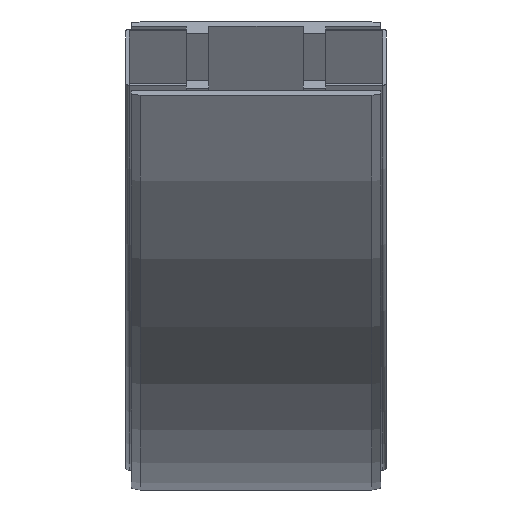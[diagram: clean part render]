
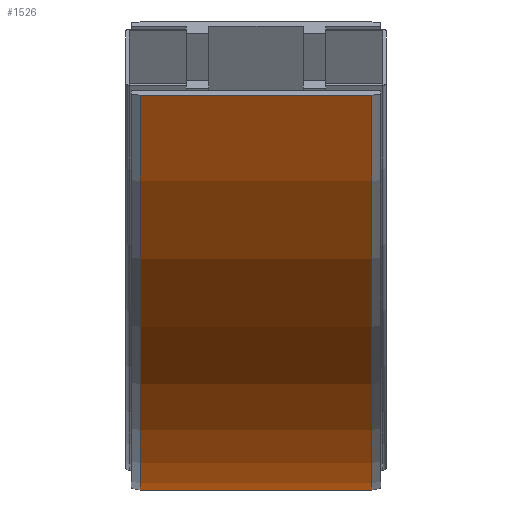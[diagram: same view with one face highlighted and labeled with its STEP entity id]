
A CAD part, left-side view. The second image highlights one B-rep face of the part: STEP entity #1526.
In plain terms, the highlighted cylindrical face has radius 442.5 mm (diameter 885 mm), a partial arc.
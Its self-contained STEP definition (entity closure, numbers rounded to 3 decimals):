
#80=CYLINDRICAL_SURFACE('',#1643,442.5);
#149=FACE_OUTER_BOUND('',#236,.T.);
#236=EDGE_LOOP('',(#1052,#1053,#1054,#1055));
#323=CIRCLE('',#1633,442.5);
#328=CIRCLE('',#1642,442.5);
#400=LINE('',#2215,#526);
#401=LINE('',#2216,#527);
#526=VECTOR('',#1808,10.);
#527=VECTOR('',#1809,10.);
#643=VERTEX_POINT('',#2183);
#644=VERTEX_POINT('',#2185);
#652=VERTEX_POINT('',#2209);
#653=VERTEX_POINT('',#2211);
#799=EDGE_CURVE('',#643,#644,#323,.T.);
#813=EDGE_CURVE('',#652,#653,#328,.T.);
#814=EDGE_CURVE('',#643,#652,#400,.T.);
#815=EDGE_CURVE('',#644,#653,#401,.T.);
#1052=ORIENTED_EDGE('',*,*,#814,.T.);
#1053=ORIENTED_EDGE('',*,*,#813,.T.);
#1054=ORIENTED_EDGE('',*,*,#815,.F.);
#1055=ORIENTED_EDGE('',*,*,#799,.F.);
#1526=ADVANCED_FACE('',(#149),#80,.T.);
#1633=AXIS2_PLACEMENT_3D('',#2186,#1777,#1778);
#1642=AXIS2_PLACEMENT_3D('',#2213,#1804,#1805);
#1643=AXIS2_PLACEMENT_3D('',#2214,#1806,#1807);
#1777=DIRECTION('center_axis',(0.,1.,0.));
#1778=DIRECTION('ref_axis',(0.,0.,-1.));
#1804=DIRECTION('center_axis',(0.,1.,0.));
#1805=DIRECTION('ref_axis',(0.,0.,-1.));
#1806=DIRECTION('center_axis',(0.,1.,0.));
#1807=DIRECTION('ref_axis',(0.,0.,-1.));
#1808=DIRECTION('',(0.,-1.,0.));
#1809=DIRECTION('',(0.,-1.,0.));
#2183=CARTESIAN_POINT('',(0.,65.,-42.5));
#2185=CARTESIAN_POINT('',(-383.216,65.,178.75));
#2186=CARTESIAN_POINT('Origin',(0.,65.,400.));
#2209=CARTESIAN_POINT('',(0.,-65.,-42.5));
#2211=CARTESIAN_POINT('',(-383.216,-65.,178.75));
#2213=CARTESIAN_POINT('Origin',(0.,-65.,400.));
#2214=CARTESIAN_POINT('Origin',(0.,0.,400.));
#2215=CARTESIAN_POINT('',(0.,65.,-42.5));
#2216=CARTESIAN_POINT('',(-383.216,65.,178.75));
